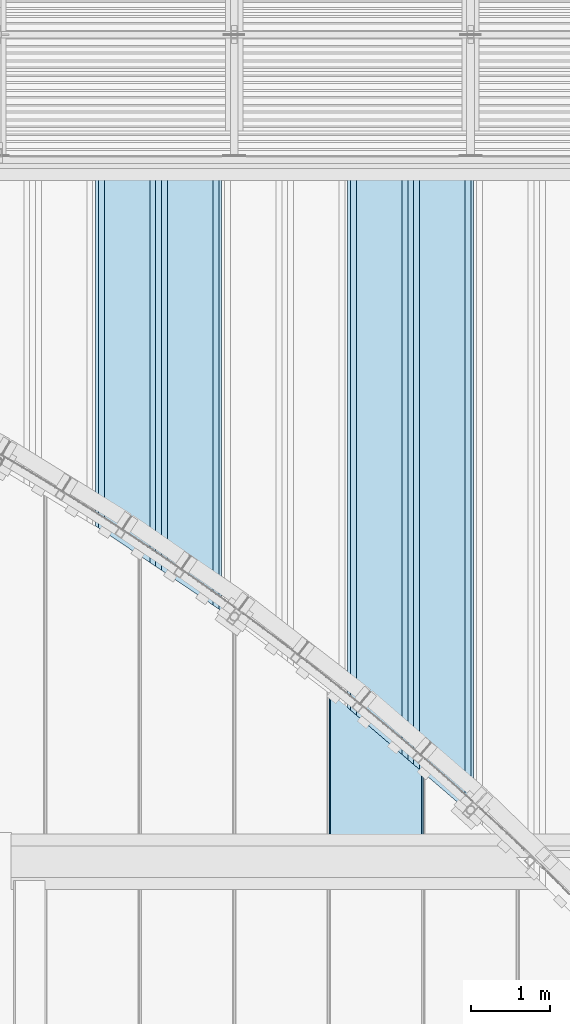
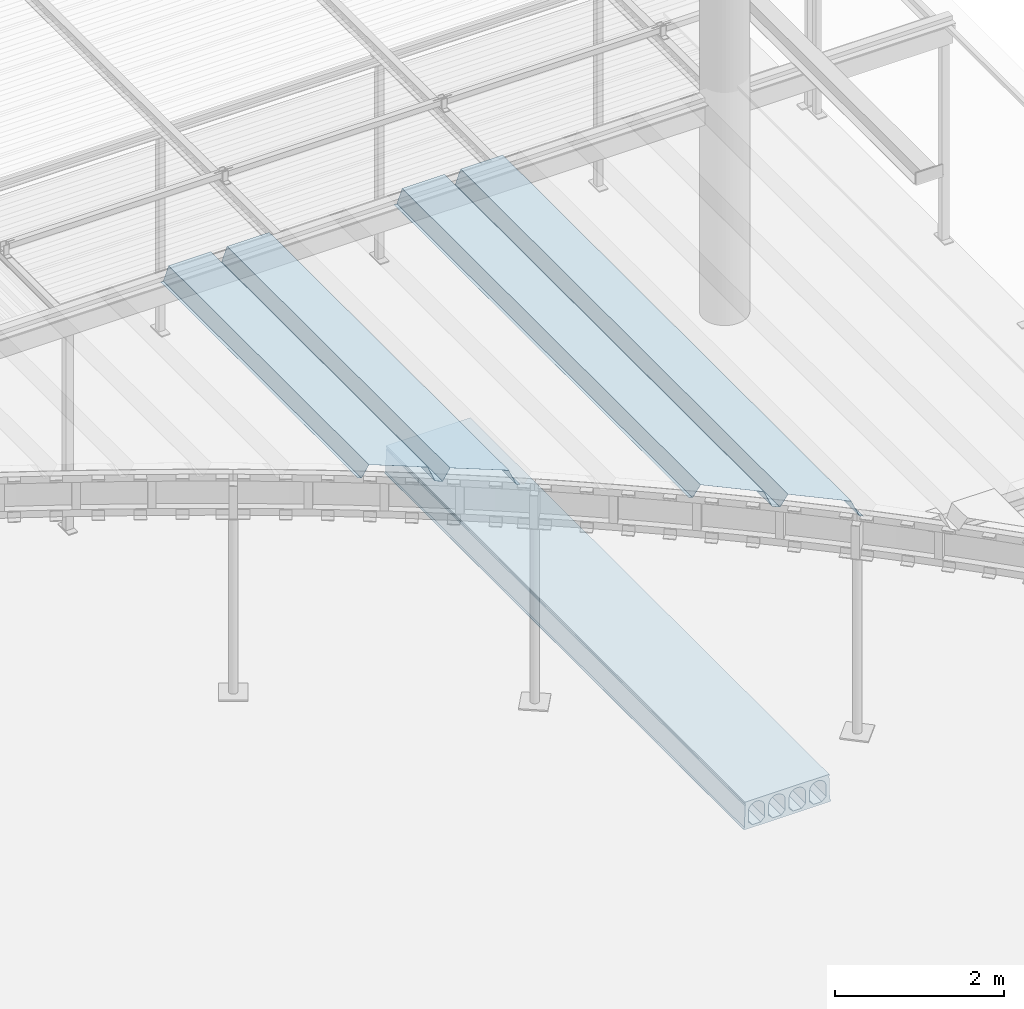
# One storey, part 64 of 98: 3 slabs.
"""IFC2X3 building model written with IfcOpenShell, lengths in millimetres."""

from ifc_helpers import new_model, entity, si_unit, converted_unit, derived_unit, direction, frame, origin_with_axes, place, context, subcontext, project, spatial, faceted_brep, material, type_object, element, save


model = new_model("IFC2X3")

# Units and contexts
model_context = context("Model", 3, precision=0.01, world=frame((0.0, 4.29681676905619e-09, 0.0)), true_north=direction((4.01073788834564e-13, 1.0)))
plan_context = context("Plan", 3, precision=0.01, world=frame((0.0, 4.29681676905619e-09, 0.0)), true_north=direction((4.01073788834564e-13, 1.0)))
body_context = subcontext(model_context, "Body", "Model", "MODEL_VIEW")
ifc_project = project(units=[converted_unit("PLANEANGLEUNIT", "DEGREE", entity("IfcPositiveLengthMeasure", 0.0174532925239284), si_unit("PLANEANGLEUNIT", "RADIAN"), dimensions=[0, 0, 0, 0, 0, 0, 0]), si_unit("AREAUNIT", "SQUARE_METRE"), si_unit("LENGTHUNIT", "METRE", prefix="MILLI"), si_unit("MASSUNIT", "GRAM", prefix="KILO"), si_unit("POWERUNIT", "WATT"), si_unit("PRESSUREUNIT", "PASCAL"), si_unit("FORCEUNIT", "NEWTON", prefix="KILO"), si_unit("ELECTRICCURRENTUNIT", "AMPERE"), si_unit("THERMODYNAMICTEMPERATUREUNIT", "DEGREE_CELSIUS"), si_unit("TIMEUNIT", "SECOND"), si_unit("VOLUMEUNIT", "CUBIC_METRE"), derived_unit("LINEARVELOCITYUNIT", [(si_unit("LENGTHUNIT", "METRE"), 1), (si_unit("TIMEUNIT", "SECOND"), -1)]), derived_unit("VOLUMETRICFLOWRATEUNIT", [(si_unit("VOLUMEUNIT", "CUBIC_METRE"), 1), (si_unit("TIMEUNIT", "SECOND"), -1)]), derived_unit("THERMALTRANSMITTANCEUNIT", [(si_unit("POWERUNIT", "WATT"), 1), (si_unit("THERMODYNAMICTEMPERATUREUNIT", "KELVIN"), -1), (si_unit("AREAUNIT", "SQUARE_METRE"), -1)])], contexts=[model_context, plan_context])

# Site, building, storey
site_placement = place(None, frame((0.0, -4.29681676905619e-09, 0.0), z_axis=(0.0, 0.0, 1.0), x_axis=(1.0, 0.0, 0.0)))
site = spatial("IfcSite", under=ifc_project, at=site_placement, Name="Gardermoen", CompositionType="ELEMENT")
building_placement = place(site_placement, frame((0.0, 4.29681676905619e-09, 0.0), z_axis=(0.0, 0.0, 1.0), x_axis=(1.0, 0.0, 0.0)))
building = spatial("IfcBuilding", under=site, at=building_placement, Name="TS", CompositionType="ELEMENT")
storey_placement = place(building_placement, origin_with_axes())
storey = spatial("IfcBuildingStorey", under=building, at=storey_placement, Name="D", CompositionType="ELEMENT", Elevation=0.0)

# Slabs
ifc_material_1 = material(Name="CONCRETE/C45/55")
slab_type_1 = type_object("IfcSlabType", Name="HD400", PredefinedType="NOTDEFINED")
slab_1_placement = place(storey_placement, frame((524799.999766, 405739.995625, 203600.0), z_axis=(0.0, 0.0, 1.0), x_axis=(0.0, 1.0, 0.0)))
element("IfcSlab", 1, at=slab_1_placement, inside=storey, type_object=slab_type_1, material=ifc_material_1, Name="HULLDEKKE", ObjectType="HD400", PredefinedType="FLOOR", context=body_context, shape_type="Brep", body=[
    faceted_brep([(0.0, 600.0, -190.0), (0.0, 600.0, -180.0), (8520.00875000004, 600.0, -180.0), (8520.00875000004, 600.0, -190.0), (0.0, 585.0, -170.0), (8520.00875000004, 585.0, -170.0), (0.0, 577.5, 145.0), (8520.00875000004, 577.5, 145.0), (0.0, 570.0, 160.0), (8520.00875000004, 570.0, 160.0), (0.0, 577.5, 175.0), (8520.00875000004, 577.5, 175.0), (0.0, 577.5, 200.0), (8520.00875000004, 577.5, 200.0), (0.0, -577.5, 200.0), (8520.00875000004, -577.5, 200.0), (0.0, -577.5, 175.0), (8520.00875000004, -577.5, 175.0), (0.0, -570.0, 160.0), (8520.00875000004, -570.0, 160.0), (0.0, -577.5, 145.0), (8520.00875000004, -577.5, 145.0), (0.0, -585.0, -170.0), (8520.00875000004, -585.0, -170.0), (0.0, -600.0, -180.0), (8520.00875000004, -600.0, -180.0), (0.0, -600.0, -190.0), (8520.00875000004, -600.0, -190.0), (0.0, -583.380004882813, -200.0), (8520.00875000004, -583.380004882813, -200.0), (0.0, 583.380004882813, -200.0), (8520.00875000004, 583.380004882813, -200.0), (0.0, -362.5, -160.0), (0.0, -477.5, -160.0), (8520.00875000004, -477.5, -160.0), (8520.00875000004, -362.5, -160.0), (0.0, -532.5, -105.0), (8520.00875000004, -532.5, -105.0), (0.0, -532.5, 47.5), (8520.00875000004, -532.5, 47.5), (0.0, -532.115755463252, 56.7901763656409), (8520.00875000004, -532.115755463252, 56.7901763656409), (0.0, -530.965646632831, 66.0168914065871), (8520.00875000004, -530.965646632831, 66.0168914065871), (0.0, -529.057529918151, 75.1171173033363), (8520.00875000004, -529.057529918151, 75.1171173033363), (0.0, -526.404439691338, 84.028690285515), (8520.00875000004, -526.404439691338, 84.028690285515), (0.0, -523.024499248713, 92.6907352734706), (8520.00875000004, -523.024499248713, 92.6907352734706), (0.0, -518.940797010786, 101.044081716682), (8520.00875000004, -518.940797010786, 101.044081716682), (0.0, -514.181228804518, 109.031667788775), (8520.00875000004, -514.181228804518, 109.031667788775), (0.0, -508.778307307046, 116.598930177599), (8520.00875000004, -508.778307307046, 116.598930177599), (0.0, -502.768939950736, 123.694176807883), (8520.00875000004, -502.768939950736, 123.694176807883), (0.0, -496.194176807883, 130.268939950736), (8520.00875000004, -496.194176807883, 130.268939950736), (0.0, -489.098930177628, 136.278307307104), (8520.00875000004, -489.098930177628, 136.278307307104), (0.0, -481.531667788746, 141.681228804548), (8520.00875000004, -481.531667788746, 141.681228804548), (0.0, -473.544081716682, 146.440797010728), (8520.00875000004, -473.544081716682, 146.440797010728), (0.0, -465.190735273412, 150.524499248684), (8520.00875000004, -465.190735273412, 150.524499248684), (0.0, -456.528690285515, 153.904439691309), (8520.00875000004, -456.528690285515, 153.904439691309), (0.0, -447.617117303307, 156.55752991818), (8520.00875000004, -447.617117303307, 156.55752991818), (0.0, -438.516891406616, 158.465646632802), (8520.00875000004, -438.516891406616, 158.465646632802), (0.0, -429.290176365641, 159.615755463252), (8520.00875000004, -429.290176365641, 159.615755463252), (0.0, -420.0, 160.0), (8520.00875000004, -420.0, 160.0), (0.0, -410.709823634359, 159.615755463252), (8520.00875000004, -410.709823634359, 159.615755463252), (0.0, -401.483108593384, 158.465646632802), (8520.00875000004, -401.483108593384, 158.465646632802), (0.0, -392.382882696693, 156.55752991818), (8520.00875000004, -392.382882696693, 156.55752991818), (0.0, -383.471309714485, 153.904439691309), (8520.00875000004, -383.471309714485, 153.904439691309), (0.0, -374.809264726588, 150.524499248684), (8520.00875000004, -374.809264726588, 150.524499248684), (0.0, -366.455918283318, 146.440797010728), (8520.00875000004, -366.455918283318, 146.440797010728), (0.0, -358.468332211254, 141.681228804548), (8520.00875000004, -358.468332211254, 141.681228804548), (0.0, -350.901069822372, 136.278307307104), (8520.00875000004, -350.901069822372, 136.278307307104), (0.0, -343.805823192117, 130.268939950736), (8520.00875000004, -343.805823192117, 130.268939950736), (0.0, -337.231060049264, 123.694176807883), (8520.00875000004, -337.231060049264, 123.694176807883), (0.0, -331.221692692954, 116.598930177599), (8520.00875000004, -331.221692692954, 116.598930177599), (0.0, -325.818771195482, 109.031667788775), (8520.00875000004, -325.818771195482, 109.031667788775), (0.0, -321.059202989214, 101.044081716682), (8520.00875000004, -321.059202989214, 101.044081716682), (0.0, -316.975500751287, 92.6907352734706), (8520.00875000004, -316.975500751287, 92.6907352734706), (0.0, -313.595560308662, 84.028690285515), (8520.00875000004, -313.595560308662, 84.028690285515), (0.0, -310.942470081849, 75.1171173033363), (8520.00875000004, -310.942470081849, 75.1171173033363), (0.0, -309.034353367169, 66.0168914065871), (8520.00875000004, -309.034353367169, 66.0168914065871), (0.0, -307.884244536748, 56.7901763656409), (8520.00875000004, -307.884244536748, 56.7901763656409), (0.0, -307.5, 47.5), (8520.00875000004, -307.5, 47.5), (0.0, -307.5, -105.0), (8520.00875000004, -307.5, -105.0), (0.0, -82.5, -160.0), (0.0, -197.5, -160.0), (8520.00875000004, -197.5, -160.0), (8520.00875000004, -82.5, -160.0), (0.0, -252.5, -105.0), (8520.00875000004, -252.5, -105.0), (0.0, -252.5, 47.5), (8520.00875000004, -252.5, 47.5), (0.0, -252.115755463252, 56.7901763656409), (8520.00875000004, -252.115755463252, 56.7901763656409), (0.0, -250.965646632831, 66.0168914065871), (8520.00875000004, -250.965646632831, 66.0168914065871), (0.0, -249.057529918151, 75.1171173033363), (8520.00875000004, -249.057529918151, 75.1171173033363), (0.0, -246.404439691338, 84.028690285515), (8520.00875000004, -246.404439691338, 84.028690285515), (0.0, -243.024499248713, 92.6907352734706), (8520.00875000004, -243.024499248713, 92.6907352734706), (0.0, -238.940797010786, 101.044081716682), (8520.00875000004, -238.940797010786, 101.044081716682), (0.0, -234.181228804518, 109.031667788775), (8520.00875000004, -234.181228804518, 109.031667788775), (0.0, -228.778307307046, 116.598930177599), (8520.00875000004, -228.778307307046, 116.598930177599), (0.0, -222.768939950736, 123.694176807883), (8520.00875000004, -222.768939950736, 123.694176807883), (0.0, -216.194176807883, 130.268939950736), (8520.00875000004, -216.194176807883, 130.268939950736), (0.0, -209.098930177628, 136.278307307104), (8520.00875000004, -209.098930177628, 136.278307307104), (0.0, -201.531667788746, 141.681228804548), (8520.00875000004, -201.531667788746, 141.681228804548), (0.0, -193.544081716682, 146.440797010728), (8520.00875000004, -193.544081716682, 146.440797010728), (0.0, -185.190735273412, 150.524499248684), (8520.00875000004, -185.190735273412, 150.524499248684), (0.0, -176.528690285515, 153.904439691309), (8520.00875000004, -176.528690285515, 153.904439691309), (0.0, -167.617117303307, 156.55752991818), (8520.00875000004, -167.617117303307, 156.55752991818), (0.0, -158.516891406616, 158.465646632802), (8520.00875000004, -158.516891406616, 158.465646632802), (0.0, -149.290176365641, 159.615755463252), (8520.00875000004, -149.290176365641, 159.615755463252), (0.0, -140.0, 160.0), (8520.00875000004, -140.0, 160.0), (0.0, -130.709823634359, 159.615755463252), (8520.00875000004, -130.709823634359, 159.615755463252), (0.0, -121.483108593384, 158.465646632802), (8520.00875000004, -121.483108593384, 158.465646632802), (0.0, -112.382882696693, 156.55752991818), (8520.00875000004, -112.382882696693, 156.55752991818), (0.0, -103.471309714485, 153.904439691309), (8520.00875000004, -103.471309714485, 153.904439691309), (0.0, -94.8092647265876, 150.524499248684), (8520.00875000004, -94.8092647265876, 150.524499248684), (0.0, -86.4559182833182, 146.440797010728), (8520.00875000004, -86.4559182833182, 146.440797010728), (0.0, -78.4683322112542, 141.681228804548), (8520.00875000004, -78.4683322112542, 141.681228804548), (0.0, -70.9010698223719, 136.278307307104), (8520.00875000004, -70.9010698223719, 136.278307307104), (0.0, -63.8058231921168, 130.268939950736), (8520.00875000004, -63.8058231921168, 130.268939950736), (0.0, -57.2310600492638, 123.694176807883), (8520.00875000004, -57.2310600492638, 123.694176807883), (0.0, -51.2216926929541, 116.598930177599), (8520.00875000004, -51.2216926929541, 116.598930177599), (0.0, -45.8187711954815, 109.031667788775), (8520.00875000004, -45.8187711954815, 109.031667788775), (0.0, -41.0592029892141, 101.044081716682), (8520.00875000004, -41.0592029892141, 101.044081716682), (0.0, -36.9755007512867, 92.6907352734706), (8520.00875000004, -36.9755007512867, 92.6907352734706), (0.0, -33.5955603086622, 84.028690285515), (8520.00875000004, -33.5955603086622, 84.028690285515), (0.0, -30.942470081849, 75.1171173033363), (8520.00875000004, -30.942470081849, 75.1171173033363), (0.0, -29.0343533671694, 66.0168914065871), (8520.00875000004, -29.0343533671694, 66.0168914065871), (0.0, -27.8842445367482, 56.7901763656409), (8520.00875000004, -27.8842445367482, 56.7901763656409), (0.0, -27.5, 47.5), (8520.00875000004, -27.5, 47.5), (0.0, -27.5, -105.0), (8520.00875000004, -27.5, -105.0), (0.0, 197.5, -160.0), (0.0, 82.5, -160.0), (8520.00875000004, 82.5, -160.0), (8520.00875000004, 197.5, -160.0), (0.0, 27.5, -105.0), (8520.00875000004, 27.5, -105.0), (0.0, 27.5, 47.5), (8520.00875000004, 27.5, 47.5), (0.0, 27.8842445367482, 56.7901763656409), (8520.00875000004, 27.8842445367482, 56.7901763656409), (0.0, 29.0343533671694, 66.0168914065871), (8520.00875000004, 29.0343533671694, 66.0168914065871), (0.0, 30.942470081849, 75.1171173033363), (8520.00875000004, 30.942470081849, 75.1171173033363), (0.0, 33.5955603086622, 84.028690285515), (8520.00875000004, 33.5955603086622, 84.028690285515), (0.0, 36.9755007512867, 92.6907352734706), (8520.00875000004, 36.9755007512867, 92.6907352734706), (0.0, 41.0592029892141, 101.044081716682), (8520.00875000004, 41.0592029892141, 101.044081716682), (0.0, 45.8187711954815, 109.031667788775), (8520.00875000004, 45.8187711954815, 109.031667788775), (0.0, 51.2216926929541, 116.598930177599), (8520.00875000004, 51.2216926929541, 116.598930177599), (0.0, 57.2310600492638, 123.694176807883), (8520.00875000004, 57.2310600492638, 123.694176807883), (0.0, 63.8058231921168, 130.268939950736), (8520.00875000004, 63.8058231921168, 130.268939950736), (0.0, 70.9010698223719, 136.278307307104), (8520.00875000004, 70.9010698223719, 136.278307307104), (0.0, 78.4683322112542, 141.681228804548), (8520.00875000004, 78.4683322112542, 141.681228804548), (0.0, 86.4559182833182, 146.440797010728), (8520.00875000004, 86.4559182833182, 146.440797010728), (0.0, 94.8092647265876, 150.524499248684), (8520.00875000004, 94.8092647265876, 150.524499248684), (0.0, 103.471309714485, 153.904439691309), (8520.00875000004, 103.471309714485, 153.904439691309), (0.0, 112.382882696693, 156.55752991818), (8520.00875000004, 112.382882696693, 156.55752991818), (0.0, 121.483108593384, 158.465646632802), (8520.00875000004, 121.483108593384, 158.465646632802), (0.0, 130.709823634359, 159.615755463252), (8520.00875000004, 130.709823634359, 159.615755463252), (0.0, 140.0, 160.0), (8520.00875000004, 140.0, 160.0), (0.0, 149.290176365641, 159.615755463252), (8520.00875000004, 149.290176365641, 159.615755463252), (0.0, 158.516891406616, 158.465646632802), (8520.00875000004, 158.516891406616, 158.465646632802), (0.0, 167.617117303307, 156.55752991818), (8520.00875000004, 167.617117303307, 156.55752991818), (0.0, 176.528690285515, 153.904439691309), (8520.00875000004, 176.528690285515, 153.904439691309), (0.0, 185.190735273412, 150.524499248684), (8520.00875000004, 185.190735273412, 150.524499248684), (0.0, 193.544081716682, 146.440797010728), (8520.00875000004, 193.544081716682, 146.440797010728), (0.0, 201.531667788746, 141.681228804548), (8520.00875000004, 201.531667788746, 141.681228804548), (0.0, 209.098930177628, 136.278307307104), (8520.00875000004, 209.098930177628, 136.278307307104), (0.0, 216.194176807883, 130.268939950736), (8520.00875000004, 216.194176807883, 130.268939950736), (0.0, 222.768939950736, 123.694176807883), (8520.00875000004, 222.768939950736, 123.694176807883), (0.0, 228.778307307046, 116.598930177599), (8520.00875000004, 228.778307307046, 116.598930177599), (0.0, 234.181228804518, 109.031667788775), (8520.00875000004, 234.181228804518, 109.031667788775), (0.0, 238.940797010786, 101.044081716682), (8520.00875000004, 238.940797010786, 101.044081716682), (0.0, 243.024499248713, 92.6907352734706), (8520.00875000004, 243.024499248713, 92.6907352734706), (0.0, 246.404439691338, 84.028690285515), (8520.00875000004, 246.404439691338, 84.028690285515), (0.0, 249.057529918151, 75.1171173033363), (8520.00875000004, 249.057529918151, 75.1171173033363), (0.0, 250.965646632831, 66.0168914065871), (8520.00875000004, 250.965646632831, 66.0168914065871), (0.0, 252.115755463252, 56.7901763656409), (8520.00875000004, 252.115755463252, 56.7901763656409), (0.0, 252.5, 47.5), (8520.00875000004, 252.5, 47.5), (0.0, 252.5, -105.0), (8520.00875000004, 252.5, -105.0), (0.0, 477.5, -160.0), (0.0, 362.5, -160.0), (8520.00875000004, 362.5, -160.0), (8520.00875000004, 477.5, -160.0), (0.0, 307.5, -105.0), (8520.00875000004, 307.5, -105.0), (0.0, 307.5, 47.5), (8520.00875000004, 307.5, 47.5), (0.0, 307.884244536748, 56.7901763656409), (8520.00875000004, 307.884244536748, 56.7901763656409), (0.0, 309.034353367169, 66.0168914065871), (8520.00875000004, 309.034353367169, 66.0168914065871), (0.0, 310.942470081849, 75.1171173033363), (8520.00875000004, 310.942470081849, 75.1171173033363), (0.0, 313.595560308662, 84.028690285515), (8520.00875000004, 313.595560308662, 84.028690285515), (0.0, 316.975500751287, 92.6907352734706), (8520.00875000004, 316.975500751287, 92.6907352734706), (0.0, 321.059202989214, 101.044081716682), (8520.00875000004, 321.059202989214, 101.044081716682), (0.0, 325.818771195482, 109.031667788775), (8520.00875000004, 325.818771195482, 109.031667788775), (0.0, 331.221692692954, 116.598930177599), (8520.00875000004, 331.221692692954, 116.598930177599), (0.0, 337.231060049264, 123.694176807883), (8520.00875000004, 337.231060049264, 123.694176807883), (0.0, 343.805823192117, 130.268939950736), (8520.00875000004, 343.805823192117, 130.268939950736), (0.0, 350.901069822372, 136.278307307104), (8520.00875000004, 350.901069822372, 136.278307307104), (0.0, 358.468332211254, 141.681228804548), (8520.00875000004, 358.468332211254, 141.681228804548), (0.0, 366.455918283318, 146.440797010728), (8520.00875000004, 366.455918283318, 146.440797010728), (0.0, 374.809264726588, 150.524499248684), (8520.00875000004, 374.809264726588, 150.524499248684), (0.0, 383.471309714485, 153.904439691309), (8520.00875000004, 383.471309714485, 153.904439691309), (0.0, 392.382882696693, 156.55752991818), (8520.00875000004, 392.382882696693, 156.55752991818), (0.0, 401.483108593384, 158.465646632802), (8520.00875000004, 401.483108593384, 158.465646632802), (0.0, 410.709823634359, 159.615755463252), (8520.00875000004, 410.709823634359, 159.615755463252), (0.0, 420.0, 160.0), (8520.00875000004, 420.0, 160.0), (0.0, 429.290176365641, 159.615755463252), (8520.00875000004, 429.290176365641, 159.615755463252), (0.0, 438.516891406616, 158.465646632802), (8520.00875000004, 438.516891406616, 158.465646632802), (0.0, 447.617117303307, 156.55752991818), (8520.00875000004, 447.617117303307, 156.55752991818), (0.0, 456.528690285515, 153.904439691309), (8520.00875000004, 456.528690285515, 153.904439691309), (0.0, 465.190735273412, 150.524499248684), (8520.00875000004, 465.190735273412, 150.524499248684), (0.0, 473.544081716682, 146.440797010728), (8520.00875000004, 473.544081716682, 146.440797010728), (0.0, 481.531667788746, 141.681228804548), (8520.00875000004, 481.531667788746, 141.681228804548), (0.0, 489.098930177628, 136.278307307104), (8520.00875000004, 489.098930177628, 136.278307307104), (0.0, 496.194176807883, 130.268939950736), (8520.00875000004, 496.194176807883, 130.268939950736), (0.0, 502.768939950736, 123.694176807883), (8520.00875000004, 502.768939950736, 123.694176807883), (0.0, 508.778307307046, 116.598930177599), (8520.00875000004, 508.778307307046, 116.598930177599), (0.0, 514.181228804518, 109.031667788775), (8520.00875000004, 514.181228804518, 109.031667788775), (0.0, 518.940797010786, 101.044081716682), (8520.00875000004, 518.940797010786, 101.044081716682), (0.0, 523.024499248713, 92.6907352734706), (8520.00875000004, 523.024499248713, 92.6907352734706), (0.0, 526.404439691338, 84.028690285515), (8520.00875000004, 526.404439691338, 84.028690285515), (0.0, 529.057529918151, 75.1171173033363), (8520.00875000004, 529.057529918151, 75.1171173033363), (0.0, 530.965646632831, 66.0168914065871), (8520.00875000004, 530.965646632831, 66.0168914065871), (0.0, 532.115755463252, 56.7901763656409), (8520.00875000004, 532.115755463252, 56.7901763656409), (0.0, 532.5, 47.5), (8520.00875000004, 532.5, 47.5), (0.0, 532.5, -105.0), (8520.00875000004, 532.5, -105.0)], [[[0, 1, 2, 3]], [[1, 4, 5, 2]], [[4, 6, 7, 5]], [[6, 8, 9, 7]], [[8, 10, 11, 9]], [[10, 12, 13, 11]], [[12, 14, 15, 13]], [[14, 16, 17, 15]], [[16, 18, 19, 17]], [[18, 20, 21, 19]], [[20, 22, 23, 21]], [[22, 24, 25, 23]], [[24, 26, 27, 25]], [[26, 28, 29, 27]], [[28, 30, 31, 29]], [[30, 0, 3, 31]], [[32, 33, 34, 35]], [[33, 36, 37, 34]], [[36, 38, 39, 37]], [[38, 40, 41, 39]], [[40, 42, 43, 41]], [[42, 44, 45, 43]], [[44, 46, 47, 45]], [[46, 48, 49, 47]], [[48, 50, 51, 49]], [[50, 52, 53, 51]], [[52, 54, 55, 53]], [[54, 56, 57, 55]], [[56, 58, 59, 57]], [[58, 60, 61, 59]], [[60, 62, 63, 61]], [[62, 64, 65, 63]], [[64, 66, 67, 65]], [[66, 68, 69, 67]], [[68, 70, 71, 69]], [[70, 72, 73, 71]], [[72, 74, 75, 73]], [[74, 76, 77, 75]], [[76, 78, 79, 77]], [[78, 80, 81, 79]], [[80, 82, 83, 81]], [[82, 84, 85, 83]], [[84, 86, 87, 85]], [[86, 88, 89, 87]], [[88, 90, 91, 89]], [[90, 92, 93, 91]], [[92, 94, 95, 93]], [[94, 96, 97, 95]], [[96, 98, 99, 97]], [[98, 100, 101, 99]], [[100, 102, 103, 101]], [[102, 104, 105, 103]], [[104, 106, 107, 105]], [[106, 108, 109, 107]], [[108, 110, 111, 109]], [[110, 112, 113, 111]], [[112, 114, 115, 113]], [[114, 116, 117, 115]], [[116, 32, 35, 117]], [[118, 119, 120, 121]], [[119, 122, 123, 120]], [[122, 124, 125, 123]], [[124, 126, 127, 125]], [[126, 128, 129, 127]], [[128, 130, 131, 129]], [[130, 132, 133, 131]], [[132, 134, 135, 133]], [[134, 136, 137, 135]], [[136, 138, 139, 137]], [[138, 140, 141, 139]], [[140, 142, 143, 141]], [[142, 144, 145, 143]], [[144, 146, 147, 145]], [[146, 148, 149, 147]], [[148, 150, 151, 149]], [[150, 152, 153, 151]], [[152, 154, 155, 153]], [[154, 156, 157, 155]], [[156, 158, 159, 157]], [[158, 160, 161, 159]], [[160, 162, 163, 161]], [[162, 164, 165, 163]], [[164, 166, 167, 165]], [[166, 168, 169, 167]], [[168, 170, 171, 169]], [[170, 172, 173, 171]], [[172, 174, 175, 173]], [[174, 176, 177, 175]], [[176, 178, 179, 177]], [[178, 180, 181, 179]], [[180, 182, 183, 181]], [[182, 184, 185, 183]], [[184, 186, 187, 185]], [[186, 188, 189, 187]], [[188, 190, 191, 189]], [[190, 192, 193, 191]], [[192, 194, 195, 193]], [[194, 196, 197, 195]], [[196, 198, 199, 197]], [[198, 200, 201, 199]], [[200, 202, 203, 201]], [[202, 118, 121, 203]], [[204, 205, 206, 207]], [[205, 208, 209, 206]], [[208, 210, 211, 209]], [[210, 212, 213, 211]], [[212, 214, 215, 213]], [[214, 216, 217, 215]], [[216, 218, 219, 217]], [[218, 220, 221, 219]], [[220, 222, 223, 221]], [[222, 224, 225, 223]], [[224, 226, 227, 225]], [[226, 228, 229, 227]], [[228, 230, 231, 229]], [[230, 232, 233, 231]], [[232, 234, 235, 233]], [[234, 236, 237, 235]], [[236, 238, 239, 237]], [[238, 240, 241, 239]], [[240, 242, 243, 241]], [[242, 244, 245, 243]], [[244, 246, 247, 245]], [[246, 248, 249, 247]], [[248, 250, 251, 249]], [[250, 252, 253, 251]], [[252, 254, 255, 253]], [[254, 256, 257, 255]], [[256, 258, 259, 257]], [[258, 260, 261, 259]], [[260, 262, 263, 261]], [[262, 264, 265, 263]], [[264, 266, 267, 265]], [[266, 268, 269, 267]], [[268, 270, 271, 269]], [[270, 272, 273, 271]], [[272, 274, 275, 273]], [[274, 276, 277, 275]], [[276, 278, 279, 277]], [[278, 280, 281, 279]], [[280, 282, 283, 281]], [[282, 284, 285, 283]], [[284, 286, 287, 285]], [[286, 288, 289, 287]], [[288, 204, 207, 289]], [[290, 291, 292, 293]], [[291, 294, 295, 292]], [[294, 296, 297, 295]], [[296, 298, 299, 297]], [[298, 300, 301, 299]], [[300, 302, 303, 301]], [[302, 304, 305, 303]], [[304, 306, 307, 305]], [[306, 308, 309, 307]], [[308, 310, 311, 309]], [[310, 312, 313, 311]], [[312, 314, 315, 313]], [[314, 316, 317, 315]], [[316, 318, 319, 317]], [[318, 320, 321, 319]], [[320, 322, 323, 321]], [[322, 324, 325, 323]], [[324, 326, 327, 325]], [[326, 328, 329, 327]], [[328, 330, 331, 329]], [[330, 332, 333, 331]], [[332, 334, 335, 333]], [[334, 336, 337, 335]], [[336, 338, 339, 337]], [[338, 340, 341, 339]], [[340, 342, 343, 341]], [[342, 344, 345, 343]], [[344, 346, 347, 345]], [[346, 348, 349, 347]], [[348, 350, 351, 349]], [[350, 352, 353, 351]], [[352, 354, 355, 353]], [[354, 356, 357, 355]], [[356, 358, 359, 357]], [[358, 360, 361, 359]], [[360, 362, 363, 361]], [[362, 364, 365, 363]], [[364, 366, 367, 365]], [[366, 368, 369, 367]], [[368, 370, 371, 369]], [[370, 372, 373, 371]], [[372, 374, 375, 373]], [[374, 290, 293, 375]], [[5, 7, 9, 11, 13, 15, 17, 19, 21, 23, 25, 27, 29, 31, 3, 2], [295, 297, 299, 301, 303, 305, 307, 309, 311, 313, 315, 317, 319, 321, 323, 325, 327, 329, 331, 333, 335, 337, 339, 341, 343, 345, 347, 349, 351, 353, 355, 357, 359, 361, 363, 365, 367, 369, 371, 373, 375, 293, 292], [209, 211, 213, 215, 217, 219, 221, 223, 225, 227, 229, 231, 233, 235, 237, 239, 241, 243, 245, 247, 249, 251, 253, 255, 257, 259, 261, 263, 265, 267, 269, 271, 273, 275, 277, 279, 281, 283, 285, 287, 289, 207, 206], [123, 125, 127, 129, 131, 133, 135, 137, 139, 141, 143, 145, 147, 149, 151, 153, 155, 157, 159, 161, 163, 165, 167, 169, 171, 173, 175, 177, 179, 181, 183, 185, 187, 189, 191, 193, 195, 197, 199, 201, 203, 121, 120], [37, 39, 41, 43, 45, 47, 49, 51, 53, 55, 57, 59, 61, 63, 65, 67, 69, 71, 73, 75, 77, 79, 81, 83, 85, 87, 89, 91, 93, 95, 97, 99, 101, 103, 105, 107, 109, 111, 113, 115, 117, 35, 34]], [[30, 28, 26, 24, 22, 20, 18, 16, 14, 12, 10, 8, 6, 4, 1, 0], [374, 372, 370, 368, 366, 364, 362, 360, 358, 356, 354, 352, 350, 348, 346, 344, 342, 340, 338, 336, 334, 332, 330, 328, 326, 324, 322, 320, 318, 316, 314, 312, 310, 308, 306, 304, 302, 300, 298, 296, 294, 291, 290], [288, 286, 284, 282, 280, 278, 276, 274, 272, 270, 268, 266, 264, 262, 260, 258, 256, 254, 252, 250, 248, 246, 244, 242, 240, 238, 236, 234, 232, 230, 228, 226, 224, 222, 220, 218, 216, 214, 212, 210, 208, 205, 204], [202, 200, 198, 196, 194, 192, 190, 188, 186, 184, 182, 180, 178, 176, 174, 172, 170, 168, 166, 164, 162, 160, 158, 156, 154, 152, 150, 148, 146, 144, 142, 140, 138, 136, 134, 132, 130, 128, 126, 124, 122, 119, 118], [116, 114, 112, 110, 108, 106, 104, 102, 100, 98, 96, 94, 92, 90, 88, 86, 84, 82, 80, 78, 76, 74, 72, 70, 68, 66, 64, 62, 60, 58, 56, 54, 52, 50, 48, 46, 44, 42, 40, 38, 36, 33, 32]]]),
])
ifc_material_2 = material(Name="STEEL/S355")
slab_type_2 = type_object("IfcSlabType", Name="PLANNJA200", PredefinedType="NOTDEFINED")
slab_2_placement = place(storey_placement, frame((522040.35, 409748.43, 207199.0), z_axis=(0.0, 0.0, 1.0), x_axis=(0.0, 1.0, 0.0)))
element("IfcSlab", 2, at=slab_2_placement, inside=storey, type_object=slab_type_2, material=ifc_material_2, Name="STÅLTAK", ObjectType="PLANNJA200", PredefinedType="FLOOR", context=body_context, shape_type="Brep", body=[
    faceted_brep([(15.5033113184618, 800.0, -98.5), (-9.33960164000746, 763.196472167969, -98.5), (4696.54999999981, 763.196472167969, -98.5), (4696.54999999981, 800.0, -98.5), (-58.7482777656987, 690.0, 99.5), (4696.54999999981, 690.0, 99.5), (-450.256656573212, 110.0, 99.5), (4696.54999999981, 110.0, 99.5), (-499.665327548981, 36.8035354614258, -98.5), (4696.54999999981, 36.8035354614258, -98.5), (-549.351163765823, -36.8035354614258, -98.5), (4696.54999999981, -36.8035354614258, -98.5), (-598.759834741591, -110.0, 99.5), (4696.54999999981, -110.0, 99.5), (-990.268213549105, -690.0, 99.5), (4696.54999999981, -690.0, 99.5), (-1039.6768896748, -763.196472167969, -98.5), (4696.54999999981, -763.196472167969, -98.5), (-1064.51980263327, -800.0, -98.5), (4696.54999999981, -800.0, -98.5), (-1064.51980263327, -800.0, -99.5), (4696.54999999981, -800.0, -99.5), (-1039.20676090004, -762.5, -99.5), (4696.54999999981, -762.5, -99.5), (-989.798084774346, -689.303527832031, 98.5), (4696.54999999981, -689.303527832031, 98.5), (-599.22995836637, -110.696464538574, 98.5), (4696.54999999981, -110.696464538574, 98.5), (-549.82128739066, -37.5, -99.5), (4696.54999999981, -37.5, -99.5), (-499.195203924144, 37.5, -99.5), (4696.54999999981, 37.5, -99.5), (-449.786532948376, 110.696464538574, 98.5), (4696.54999999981, 110.696464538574, 98.5), (-59.2184065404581, 689.303527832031, 98.5), (4696.54999999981, 689.303527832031, 98.5), (-9.80973041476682, 762.5, -99.5), (4696.54999999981, 762.5, -99.5), (15.5033113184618, 800.0, -99.5), (4696.54999999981, 800.0, -99.5)], [[[0, 1, 2, 3]], [[1, 4, 5, 2]], [[4, 6, 7, 5]], [[6, 8, 9, 7]], [[8, 10, 11, 9]], [[10, 12, 13, 11]], [[12, 14, 15, 13]], [[14, 16, 17, 15]], [[16, 18, 19, 17]], [[18, 20, 21, 19]], [[20, 22, 23, 21]], [[22, 24, 25, 23]], [[24, 26, 27, 25]], [[26, 28, 29, 27]], [[28, 30, 31, 29]], [[30, 32, 33, 31]], [[32, 34, 35, 33]], [[34, 36, 37, 35]], [[36, 38, 39, 37]], [[38, 0, 3, 39]], [[5, 7, 9, 11, 13, 15, 17, 19, 21, 23, 25, 27, 29, 31, 33, 35, 37, 39, 3, 2]], [[38, 36, 34, 32, 30, 28, 26, 24, 22, 20, 18, 16, 14, 12, 10, 8, 6, 4, 1, 0]]]),
])
slab_3_placement = place(storey_placement, frame((525240.35, 407429.44, 207199.0), z_axis=(0.0, 0.0, 1.0), x_axis=(0.0, 1.0, 0.0)))
element("IfcSlab", 3, at=slab_3_placement, inside=storey, type_object=slab_type_2, material=ifc_material_2, Name="STÅLTAK", ObjectType="PLANNJA200", PredefinedType="FLOOR", context=body_context, shape_type="Brep", body=[
    faceted_brep([(26.449449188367, 800.0, -98.5), (-5.23260731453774, 763.196472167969, -98.5), (7015.5399999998, 763.196472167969, -98.5), (7015.5399999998, 800.0, -98.5), (-68.2432724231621, 690.0, 99.5), (7015.5399999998, 690.0, 99.5), (-567.532168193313, 110.0, 99.5), (7015.5399999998, 110.0, 99.5), (-630.54282673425, 36.8035354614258, -98.5), (7015.5399999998, 36.8035354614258, -98.5), (-693.90695287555, -36.8035354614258, -98.5), (7015.5399999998, -36.8035354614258, -98.5), (-756.917611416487, -110.0, 99.5), (7015.5399999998, -110.0, 99.5), (-1256.20650718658, -690.0, 99.5), (7015.5399999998, -690.0, 99.5), (-1319.21717229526, -763.196472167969, -98.5), (7015.5399999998, -763.196472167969, -98.5), (-1350.89922879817, -800.0, -98.5), (7015.5399999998, -800.0, -98.5), (-1350.89922879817, -800.0, -99.5), (7015.5399999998, -800.0, -99.5), (-1318.61761915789, -762.5, -99.5), (7015.5399999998, -762.5, -99.5), (-1255.6069540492, -689.303527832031, 98.5), (7015.5399999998, -689.303527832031, 98.5), (-757.51715798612, -110.696464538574, 98.5), (7015.5399999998, -110.696464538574, 98.5), (-694.506499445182, -37.5, -99.5), (7015.5399999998, -37.5, -99.5), (-629.94328016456, 37.5, -99.5), (7015.5399999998, 37.5, -99.5), (-566.932621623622, 110.696464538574, 98.5), (7015.5399999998, 110.696464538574, 98.5), (-68.8428255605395, 689.303527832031, 98.5), (7015.5399999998, 689.303527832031, 98.5), (-5.83216045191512, 762.5, -99.5), (7015.5399999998, 762.5, -99.5), (26.449449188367, 800.0, -99.5), (7015.5399999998, 800.0, -99.5)], [[[0, 1, 2, 3]], [[1, 4, 5, 2]], [[4, 6, 7, 5]], [[6, 8, 9, 7]], [[8, 10, 11, 9]], [[10, 12, 13, 11]], [[12, 14, 15, 13]], [[14, 16, 17, 15]], [[16, 18, 19, 17]], [[18, 20, 21, 19]], [[20, 22, 23, 21]], [[22, 24, 25, 23]], [[24, 26, 27, 25]], [[26, 28, 29, 27]], [[28, 30, 31, 29]], [[30, 32, 33, 31]], [[32, 34, 35, 33]], [[34, 36, 37, 35]], [[36, 38, 39, 37]], [[38, 0, 3, 39]], [[5, 7, 9, 11, 13, 15, 17, 19, 21, 23, 25, 27, 29, 31, 33, 35, 37, 39, 3, 2]], [[38, 36, 34, 32, 30, 28, 26, 24, 22, 20, 18, 16, 14, 12, 10, 8, 6, 4, 1, 0]]]),
])

save(model, "model.ifc")
